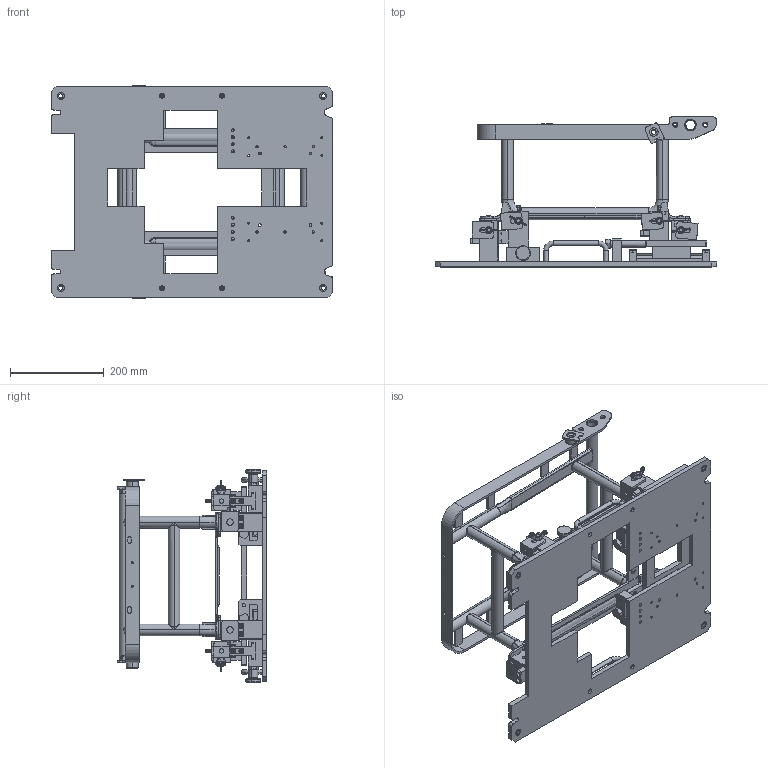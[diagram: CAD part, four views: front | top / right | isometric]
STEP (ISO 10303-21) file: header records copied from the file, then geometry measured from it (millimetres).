
FILE_DESCRIPTION(('CATIA V5 STEP Exchange'),'2;1');
FILE_NAME('C:\Users\Administrator\Desktop\M3000-S工装托盘校核.stp','2020-12-03T10:13:41+00:00',('none'),('none'),'CATIA Version 5 Release 20 GA (IN-10)','CATIA V5 STEP AP203','none');
FILE_SCHEMA(('CONFIG_CONTROL_DESIGN'));
Products named in the file (4): M3000-S工装校核; 工装定位组件S-主驾; SHT0012336; 定位销-S1
Assembly tree (79 placements, depth 3):
  M3000-S工装校核
    工装定位组件S-主驾
      #66  x2
      #795  x12
      #2626  x2
      #3243  x4
      #3875  x2
      #6153  x2
      #7108
      #14037  x2
      #14936  x2
      #16723
      #17432  x4
      #18571  x2
      #19123  x2
      #20702  x2
      #21317  x4
      #22233
      #23855
      #25795
      #27431  x4
      #28567
      #30134
      #31282
      #32229  x4
      #32988
      #34367  x2
      #35126
    #36911
    SHT0012336
      #71252
      #74435
      #77806  x2
      #78700  x4
    定位销-S1  x4
      #79828
      #80387
Bounding box: 600 x 319.41 x 453 mm (x, y, z)
Volume: 5139790 mm3; surface area: 1797886.8 mm2
Topology: 110 solids, 110 shells, 3481 faces, 8768 edges, 5588 vertices
Faces by surface type: cylinder 1436, plane 1297, torus 324, cone 320, bspline 72, sphere 32
Entity records: 81127 total; most frequent: CARTESIAN_POINT 35404, ORIENTED_EDGE 9864, DIRECTION 7745, EDGE_CURVE 4932, AXIS2_PLACEMENT_3D 3318, VERTEX_POINT 3188, VECTOR 2504, LINE 2504
